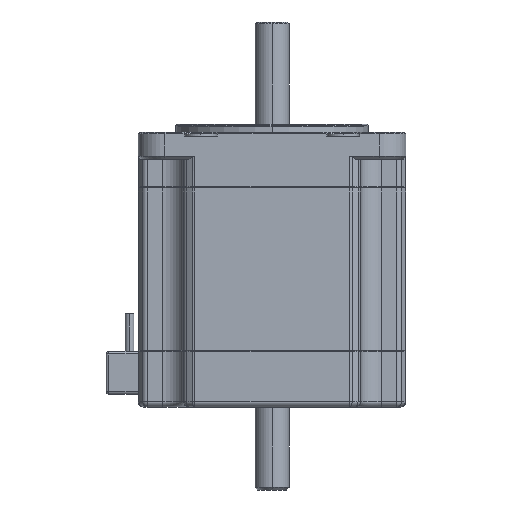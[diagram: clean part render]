
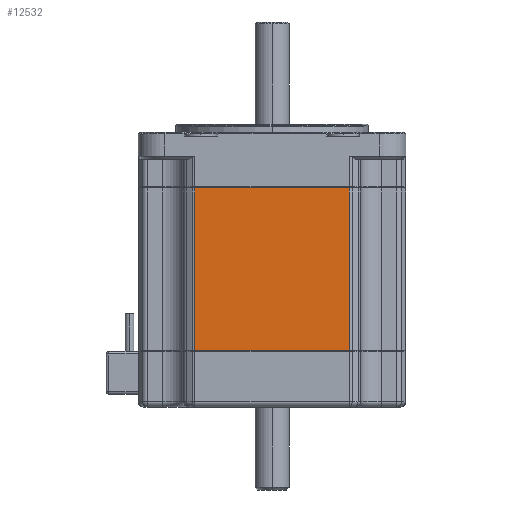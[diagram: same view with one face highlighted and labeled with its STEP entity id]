
A CAD part, left-side view. The second image highlights one B-rep face of the part: STEP entity #12532.
In plain terms, the highlighted planar face has unit normal (-1, 0, 0).
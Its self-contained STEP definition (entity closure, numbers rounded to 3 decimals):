
#69 = VERTEX_POINT ( 'NONE', #14630 ) ;
#131 = EDGE_LOOP ( 'NONE', ( #16136, #16138, #16137, #16139 ) ) ;
#770 = LINE ( 'NONE', #10757, #1377 ) ;
#874 = LINE ( 'NONE', #11018, #2382 ) ;
#905 = LINE ( 'NONE', #10835, #11742 ) ;
#1164 = VECTOR ( 'NONE', #2340, 1000. ) ;
#1377 = VECTOR ( 'NONE', #10756, 1000. ) ;
#1427 = LINE ( 'NONE', #2338, #1164 ) ;
#1697 = FACE_OUTER_BOUND ( 'NONE', #131, .T. ) ;
#2338 = CARTESIAN_POINT ( 'NONE',  ( -25., -14.422, -40.9 ) ) ;
#2340 = DIRECTION ( 'NONE',  ( 0., 0., 1. ) ) ;
#2382 = VECTOR ( 'NONE', #11239, 1000. ) ;
#3250 = PLANE ( 'NONE',  #4286 ) ;
#3251 = CARTESIAN_POINT ( 'NONE',  ( -25., 14.422, -40.9 ) ) ;
#3252 = DIRECTION ( 'NONE',  ( 1., 0., 0. ) ) ;
#3253 = DIRECTION ( 'NONE',  ( 0., 1., 0. ) ) ;
#4286 = AXIS2_PLACEMENT_3D ( 'NONE', #3251, #3252, #3253 ) ;
#5144 = EDGE_CURVE ( 'NONE', #18151, #17960, #770, .T. ) ;
#5293 = EDGE_CURVE ( 'NONE', #18151, #69, #874, .T. ) ;
#5337 = EDGE_CURVE ( 'NONE', #18150, #69, #905, .T. ) ;
#5469 = EDGE_CURVE ( 'NONE', #17960, #18150, #1427, .T. ) ;
#9922 = CARTESIAN_POINT ( 'NONE',  ( -25., -14.422, -40.7 ) ) ;
#10112 = CARTESIAN_POINT ( 'NONE',  ( -25., -14.422, -10.4 ) ) ;
#10113 = CARTESIAN_POINT ( 'NONE',  ( -25., 14.422, -40.7 ) ) ;
#10756 = DIRECTION ( 'NONE',  ( 0., -1., 0. ) ) ;
#10757 = CARTESIAN_POINT ( 'NONE',  ( -25., -14.422, -40.7 ) ) ;
#10835 = CARTESIAN_POINT ( 'NONE',  ( -25., 14.422, -10.4 ) ) ;
#11018 = CARTESIAN_POINT ( 'NONE',  ( -25., 14.422, -40.9 ) ) ;
#11239 = DIRECTION ( 'NONE',  ( 0., 0., 1. ) ) ;
#11312 = DIRECTION ( 'NONE',  ( 0., 1., 0. ) ) ;
#11742 = VECTOR ( 'NONE', #11312, 1000. ) ;
#12532 = ADVANCED_FACE ( 'NONE', ( #1697 ), #3250, .F. ) ;
#14630 = CARTESIAN_POINT ( 'NONE',  ( -25., 14.422, -10.4 ) ) ;
#16136 = ORIENTED_EDGE ( 'NONE', *, *, #5293, .F. ) ;
#16137 = ORIENTED_EDGE ( 'NONE', *, *, #5469, .T. ) ;
#16138 = ORIENTED_EDGE ( 'NONE', *, *, #5144, .T. ) ;
#16139 = ORIENTED_EDGE ( 'NONE', *, *, #5337, .T. ) ;
#17960 = VERTEX_POINT ( 'NONE', #9922 ) ;
#18150 = VERTEX_POINT ( 'NONE', #10112 ) ;
#18151 = VERTEX_POINT ( 'NONE', #10113 ) ;
